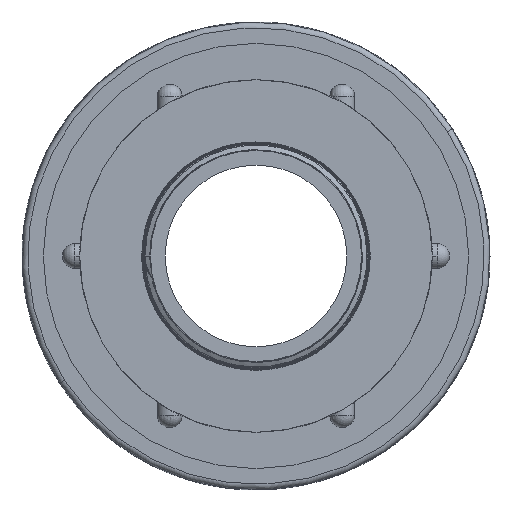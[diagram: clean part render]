
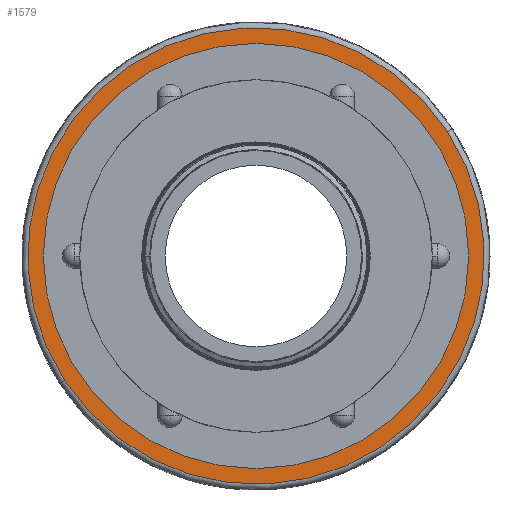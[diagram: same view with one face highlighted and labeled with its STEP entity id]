
A CAD part, left-side view. The second image highlights one B-rep face of the part: STEP entity #1579.
In plain terms, the highlighted planar face has unit normal (-1, 0, 0).
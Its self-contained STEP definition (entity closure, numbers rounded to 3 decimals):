
#500 = EDGE_LOOP ( 'NONE', ( #15440, #15441 ) ) ;
#504 = EDGE_LOOP ( 'NONE', ( #15438, #15439 ) ) ;
#1579 = ADVANCED_FACE ( 'NONE', ( #3489, #3490 ), #3491, .T. ) ;
#3485 = CARTESIAN_POINT ( 'NONE',  ( 0., 61.15, 0. ) ) ;
#3489 = FACE_OUTER_BOUND ( 'NONE', #504, .T. ) ;
#3490 = FACE_BOUND ( 'NONE', #500, .T. ) ;
#3491 = PLANE ( 'NONE',  #29440 ) ;
#3493 = DIRECTION ( 'NONE',  ( -1., 0., 0. ) ) ;
#3494 = DIRECTION ( 'NONE',  ( 0., 0., 1. ) ) ;
#15438 = ORIENTED_EDGE ( 'NONE', *, *, #24481, .T. ) ;
#15439 = ORIENTED_EDGE ( 'NONE', *, *, #24211, .T. ) ;
#15440 = ORIENTED_EDGE ( 'NONE', *, *, #24153, .T. ) ;
#15441 = ORIENTED_EDGE ( 'NONE', *, *, #24596, .T. ) ;
#21181 = CIRCLE ( 'NONE', #28831, 59.65 ) ;
#24153 = EDGE_CURVE ( 'NONE', #36526, #36529, #30166, .T. ) ;
#24211 = EDGE_CURVE ( 'NONE', #36533, #36554, #30184, .T. ) ;
#24481 = EDGE_CURVE ( 'NONE', #36554, #36533, #21181, .T. ) ;
#24596 = EDGE_CURVE ( 'NONE', #36529, #36526, #31428, .T. ) ;
#28831 = AXIS2_PLACEMENT_3D ( 'NONE', #31298, #31299, #31300 ) ;
#28971 = CARTESIAN_POINT ( 'NONE',  ( 0., 0., 0. ) ) ;
#28972 = DIRECTION ( 'NONE',  ( 1., 0., 0. ) ) ;
#28973 = DIRECTION ( 'NONE',  ( 0., 0., -1. ) ) ;
#29440 = AXIS2_PLACEMENT_3D ( 'NONE', #3485, #3493, #3494 ) ;
#30166 = CIRCLE ( 'NONE', #30167, 52.15 ) ;
#30167 = AXIS2_PLACEMENT_3D ( 'NONE', #28971, #28972, #28973 ) ;
#30184 = CIRCLE ( 'NONE', #30185, 59.65 ) ;
#30185 = AXIS2_PLACEMENT_3D ( 'NONE', #30524, #30525, #30526 ) ;
#30524 = CARTESIAN_POINT ( 'NONE',  ( 0., 0., 0. ) ) ;
#30525 = DIRECTION ( 'NONE',  ( -1., 0., 0. ) ) ;
#30526 = DIRECTION ( 'NONE',  ( 0., 0., 1. ) ) ;
#31298 = CARTESIAN_POINT ( 'NONE',  ( 0., 0., 0. ) ) ;
#31299 = DIRECTION ( 'NONE',  ( -1., 0., 0. ) ) ;
#31300 = DIRECTION ( 'NONE',  ( 0., 0., 1. ) ) ;
#31428 = CIRCLE ( 'NONE', #31430, 52.15 ) ;
#31430 = AXIS2_PLACEMENT_3D ( 'NONE', #32296, #32297, #32298 ) ;
#32296 = CARTESIAN_POINT ( 'NONE',  ( 0., 0., 0. ) ) ;
#32297 = DIRECTION ( 'NONE',  ( 1., 0., 0. ) ) ;
#32298 = DIRECTION ( 'NONE',  ( 0., 0., -1. ) ) ;
#35770 = CARTESIAN_POINT ( 'NONE',  ( 0., 0., -52.15 ) ) ;
#35771 = CARTESIAN_POINT ( 'NONE',  ( 0., 0., 59.65 ) ) ;
#35811 = CARTESIAN_POINT ( 'NONE',  ( 0., 0., 52.15 ) ) ;
#35815 = CARTESIAN_POINT ( 'NONE',  ( 0., 0., -59.65 ) ) ;
#36526 = VERTEX_POINT ( 'NONE', #35770 ) ;
#36529 = VERTEX_POINT ( 'NONE', #35811 ) ;
#36533 = VERTEX_POINT ( 'NONE', #35815 ) ;
#36554 = VERTEX_POINT ( 'NONE', #35771 ) ;
